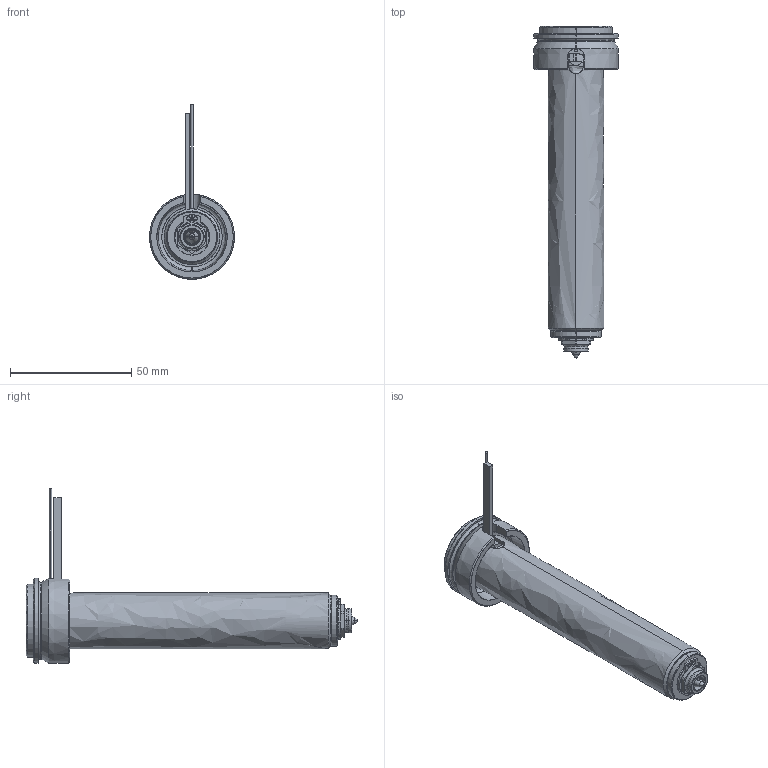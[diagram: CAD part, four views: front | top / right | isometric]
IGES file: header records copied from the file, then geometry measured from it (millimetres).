
Start section: SolidWorks IGES file using analytic representation for surfaces
Global section: file name: C:\Documents and Settings\ws-20\Desktop\TEM\UGEP3053-M-A-0 [Øf-0.90 ØC-6.0].IGS; native system: SolidWorks 2012; preprocessor: SolidWorks 2012; author: ws-20; date: 120402.112814; units: millimetre
Bounding box: 35 x 136.8 x 71.9 mm (x, y, z)
Surface area: 27147.9 mm2 (no closed solid volume)
Topology: 0 solids, 0 shells, 130 faces, 1864 edges, 1864 vertices
Faces by surface type: revolution 79, bspline 51
